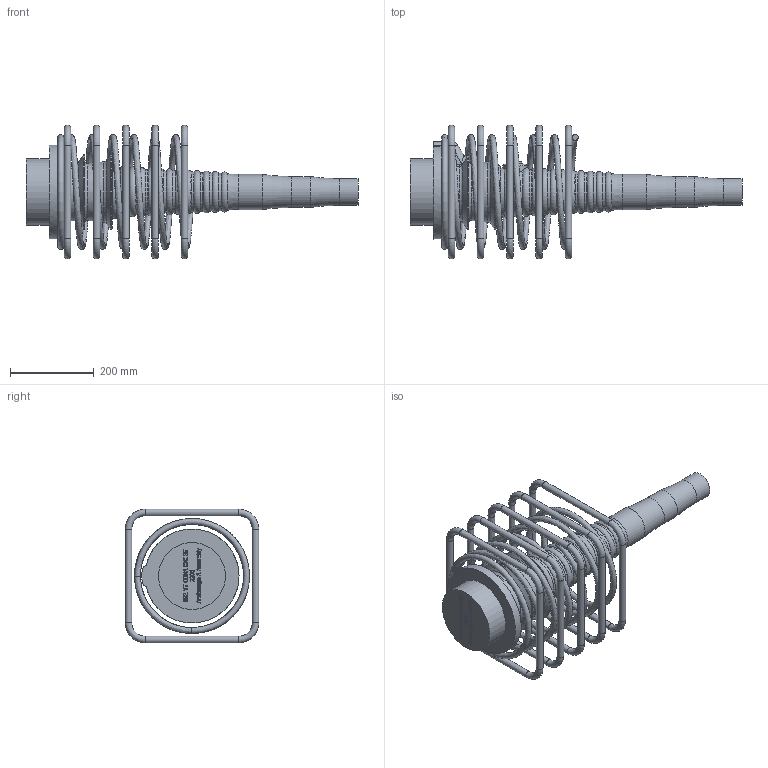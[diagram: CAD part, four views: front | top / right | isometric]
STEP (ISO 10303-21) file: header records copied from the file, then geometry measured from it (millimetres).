
FILE_DESCRIPTION(/* description */ (''),/* implementation_level */ '2;1');
FILE_NAME(/* name */ 'BBR VT CONA CMI BT 1206_Anchorage A Assembly_CS-34,28.stp',/* time_stamp */ '2025-04-28T14:37:59+02:00',/* author */ ('tk'),/* organization */ (''),/* preprocessor_version */ 'ST-DEVELOPER v20',/* originating_system */ 'Autodesk Inventor 2024',/* authorisation */ '');
FILE_SCHEMA (('AUTOMOTIVE_DESIGN { 1 0 10303 214 3 1 1 }'));
Length unit declared in the file: millimetre
Products named in the file (1): BBR VT CONA CMI BT 1206_Anchorage A Assembly_CS-34,28
Bounding box: 794.43 x 320 x 320 mm (x, y, z)
Volume: 10119251.8 mm3; surface area: 922469.8 mm2
Topology: 7 solids, 7 shells, 772 faces, 2056 edges, 1346 vertices
Faces by surface type: plane 324, bspline 304, torus 72, cylinder 41, cone 17, sphere 14
Full cylindrical faces by diameter (mm): 16 x20, 34 x1, 57 x1, 64.013 x1, 74.013 x1, 84.013 x1, 160 x1, 177.282 x1, 178.841 x1
Entity records: 30779 total; most frequent: CARTESIAN_POINT 12514, ORIENTED_EDGE 4112, DIRECTION 2711, EDGE_CURVE 2056, VERTEX_POINT 1346, LINE 1113, VECTOR 1113, EDGE_LOOP 832
